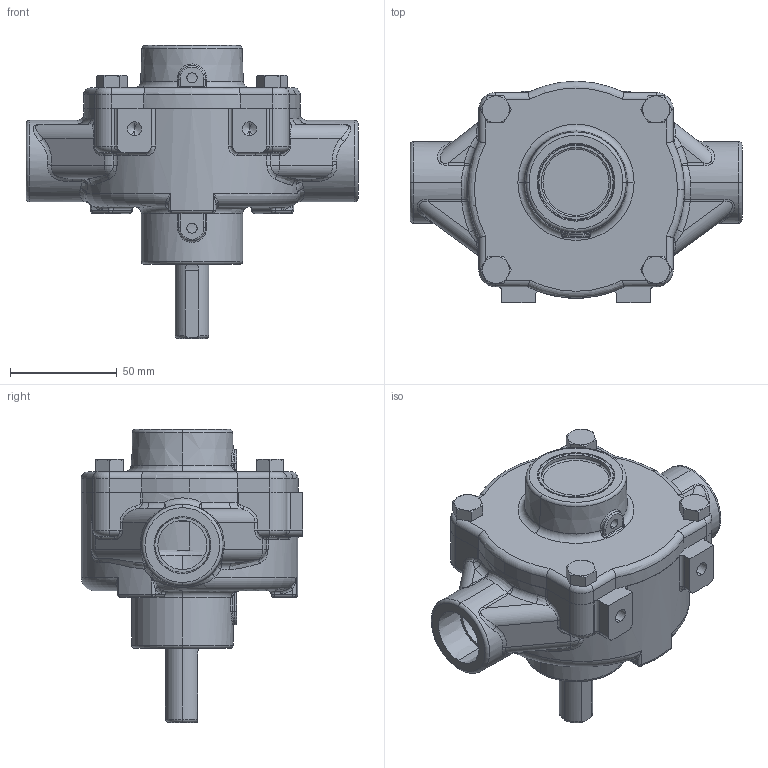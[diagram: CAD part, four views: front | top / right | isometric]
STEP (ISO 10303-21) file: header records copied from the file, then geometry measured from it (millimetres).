
FILE_DESCRIPTION (( 'STEP AP203' ), '1' );
FILE_NAME ('6500C.step', '2013-09-25T14:03:18', ( '' ), ( '' ), 'SwSTEP 2.0', 'SolidWorks 2012', '' );
FILE_SCHEMA (( 'CONFIG_CONTROL_DESIGN' ));
Length unit declared in the file: inch
Products named in the file (1): 6500C
Bounding box: 155.57 x 103.76 x 137.33 mm (x, y, z)
Volume: 612076.4 mm3; surface area: 67474.3 mm2
Topology: 1 solids, 34 shells, 984 faces, 2198 edges, 1222 vertices
Faces by surface type: cylinder 298, cone 260, plane 145, bspline 138, torus 117, sphere 26
Entity records: 34263 total; most frequent: CARTESIAN_POINT 13312, DIRECTION 4493, ORIENTED_EDGE 4324, EDGE_CURVE 2162, AXIS2_PLACEMENT_3D 1863, VERTEX_POINT 1218, CIRCLE 1016, EDGE_LOOP 1012
